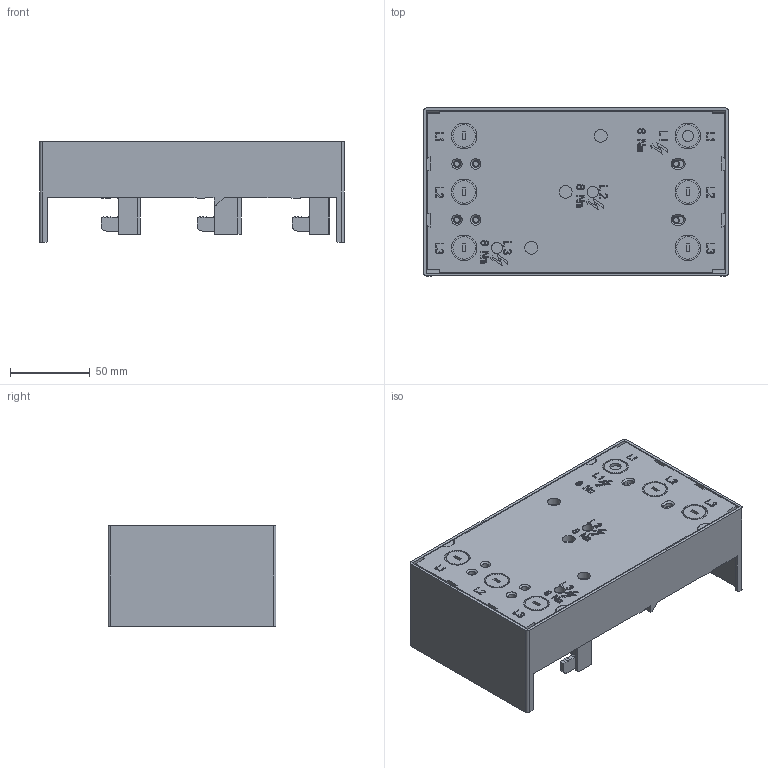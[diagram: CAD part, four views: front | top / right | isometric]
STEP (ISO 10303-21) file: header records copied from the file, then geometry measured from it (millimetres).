
FILE_DESCRIPTION (( 'STEP AP203' ), '1' );
FILE_NAME ('55155.STEP', '2021-08-25T05:20:24', ( '' ), ( '' ), 'SwSTEP 2.0', 'SolidWorks 2017', '' );
FILE_SCHEMA (( 'CONFIG_CONTROL_DESIGN' ));
Length unit declared in the file: millimetre
Products named in the file (2): 55155
Bounding box: 190.5 x 105 x 63 mm (x, y, z)
Volume: 685694 mm3; surface area: 133251 mm2
Topology: 5 solids, 30 shells, 2602 faces, 7330 edges, 4849 vertices
Faces by surface type: plane 2247, cylinder 271, cone 78, bspline 6
Full cylindrical faces by diameter (mm): 3.2 x12, 3.8 x2, 4.5 x4, 7 x3, 7.5 x4, 7.8 x2, 8 x3, 10 x1, 12 x3, 14 x6, 16 x6
Entity records: 84005 total; most frequent: CARTESIAN_POINT 17475, ORIENTED_EDGE 14386, DIRECTION 12434, EDGE_CURVE 7193, LINE 6386, VECTOR 6386, VERTEX_POINT 4800, AXIS2_PLACEMENT_3D 3024
